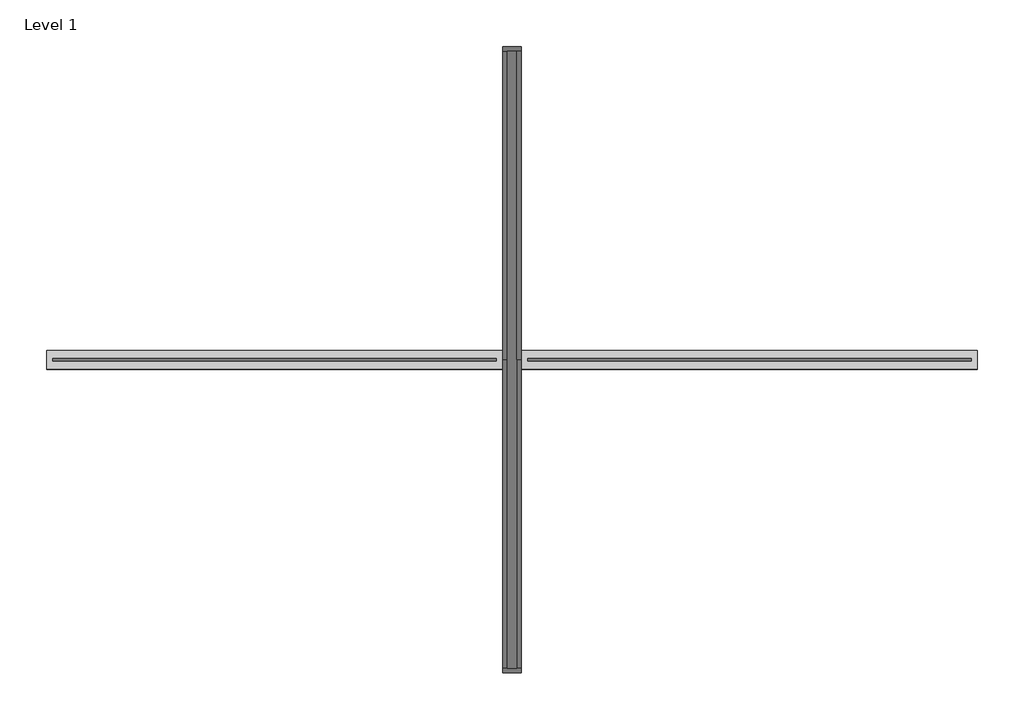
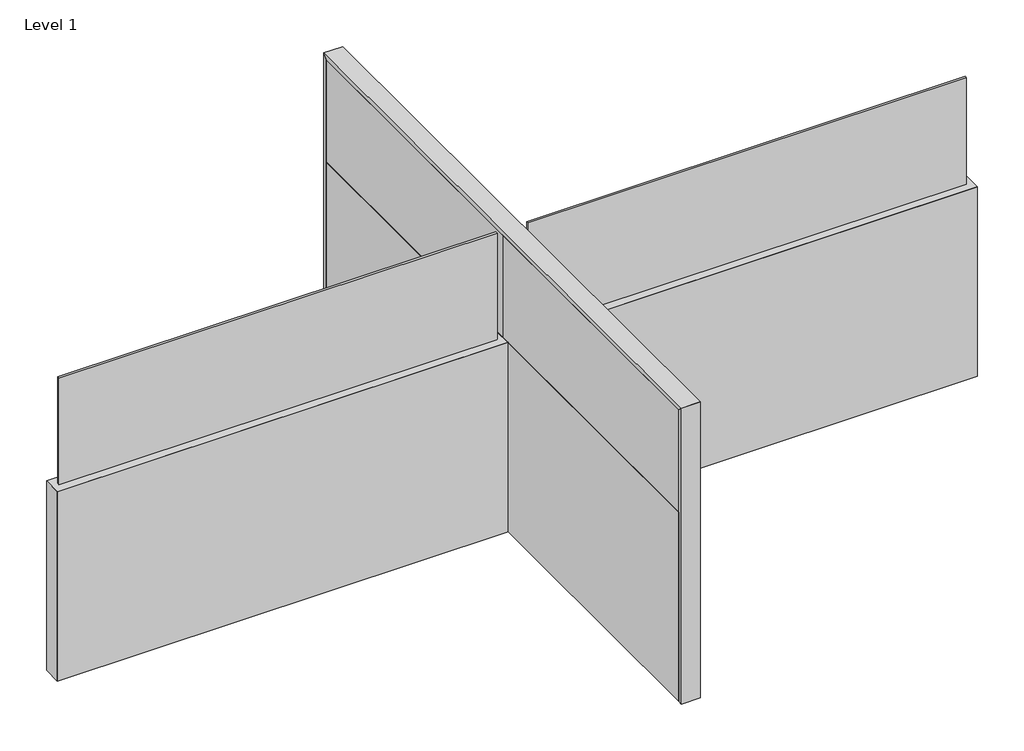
# One storey, incomplete: 3 proxies.
"""IFC4 building model written with IfcOpenShell, lengths in millimetres."""

from ifc_helpers import new_model, si_unit, origin, place, context, project, spatial, transform, mapped, element, save
from components import generic_models_9993ab1e, generic_models_86f6b748

model = new_model("IFC4")

# Units and contexts
model_context = context("Model", 3, world=origin())
ifc_project = project(units=[si_unit("LENGTHUNIT", "METRE", prefix="MILLI")], contexts=[model_context])

# Site, building, storey
site = spatial("IfcSite", under=ifc_project)
building = spatial("IfcBuilding", under=site)
storey = spatial("IfcBuildingStorey", under=building, Name="Level 1", Elevation=0.0)

# Proxies
placement = place(None, origin())
generic_models_shape = generic_models_9993ab1e(model_context)
element("IfcBuildingElementProxy", 1, Name="ELEVATE^ADMIN_72x50 DIVIDER WALL-GLASS DIVIDER", ObjectType="ELEVATE^ADMIN_72x50 DIVIDER WALL-GLASS DIVIDER", at=placement, inside=storey, context=model_context, shape_type="MappedRepresentation", body=[
    mapped(generic_models_shape, transform((1905.0, -1276.35, 0.0), x_axis=(1.0, 0.0, 0.0), y_axis=(0.0, 0.0, 1.0), z_axis=(0.0, -1.0, 0.0))),
])
element("IfcBuildingElementProxy", 2, Name="ELEVATE^ADMIN_72x50 DIVIDER WALL-GLASS DIVIDER", ObjectType="ELEVATE^ADMIN_72x50 DIVIDER WALL-GLASS DIVIDER", at=placement, inside=storey, context=model_context, shape_type="MappedRepresentation", body=[
    mapped(generic_models_shape, transform((0.0, -1276.35, 0.0), x_axis=(1.0, 0.0, 0.0), y_axis=(0.0, 0.0, 1.0), z_axis=(0.0, -1.0, 0.0))),
])
generic_models_2_shape = generic_models_86f6b748(model_context)
element("IfcBuildingElementProxy", 3, Name="ELEVATE^ADMIN_99x50 DIVIDER WALL-TACK 2 SIDES", ObjectType="ELEVATE^ADMIN_99x50 DIVIDER WALL-TACK 2 SIDES", at=placement, inside=storey, context=model_context, shape_type="MappedRepresentation", body=[
    mapped(generic_models_2_shape, transform((1885.95, -2495.55, 0.0), x_axis=(0.0, 1.0, 0.0), y_axis=(0.0, 0.0, 1.0), z_axis=(1.0, 0.0, 0.0))),
])

save(model, "model.ifc")
